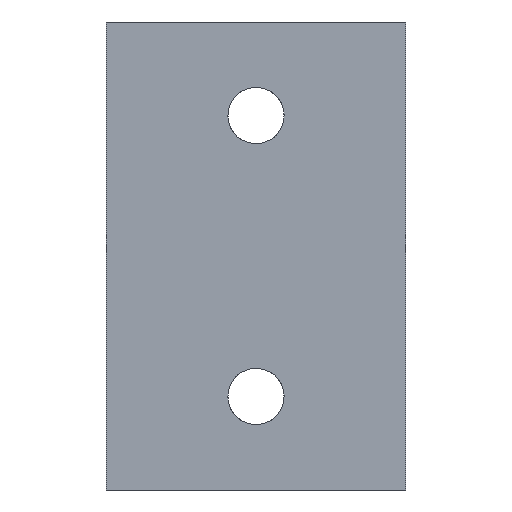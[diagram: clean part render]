
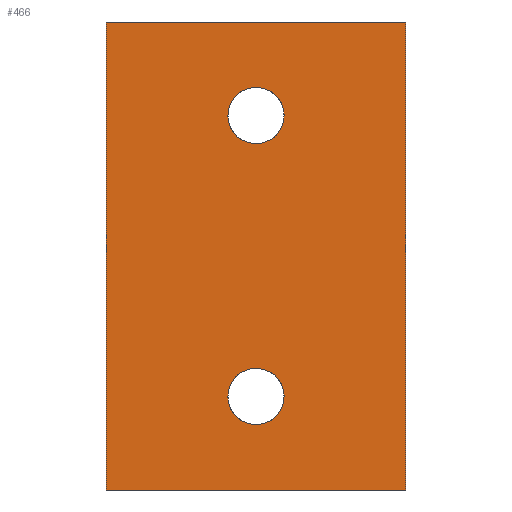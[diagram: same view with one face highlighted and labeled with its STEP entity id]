
A CAD part, front view. The second image highlights one B-rep face of the part: STEP entity #466.
In plain terms, the highlighted face is a extrusion surface.
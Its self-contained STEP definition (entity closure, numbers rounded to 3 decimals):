
#355=CARTESIAN_POINT('Control Point',(-48.,0.,0.)) ;
#356=CARTESIAN_POINT('Control Point',(-48.,0.,-75.)) ;
#360=CARTESIAN_POINT('Line Origine',(-24.,0.,-75.)) ;
#364=CARTESIAN_POINT('Vertex',(-48.,0.,-75.)) ;
#366=CARTESIAN_POINT('Vertex',(0.,0.,-75.)) ;
#369=CARTESIAN_POINT('Line Origine',(0.,0.,-37.5)) ;
#373=CARTESIAN_POINT('Vertex',(0.,0.,0.)) ;
#376=CARTESIAN_POINT('Line Origine',(-24.,0.,0.)) ;
#380=CARTESIAN_POINT('Vertex',(-48.,0.,0.)) ;
#383=CARTESIAN_POINT('Line Origine',(-48.,0.,-37.5)) ;
#395=CARTESIAN_POINT('Control Point',(-19.5,0.,-60.)) ;
#396=CARTESIAN_POINT('Control Point',(-19.5,0.,-61.247)) ;
#397=CARTESIAN_POINT('Control Point',(-19.932,0.,-62.494)) ;
#398=CARTESIAN_POINT('Control Point',(-20.8,0.,-63.539)) ;
#399=CARTESIAN_POINT('Control Point',(-22.71,0.,-64.63)) ;
#400=CARTESIAN_POINT('Control Point',(-24.841,0.,-64.54)) ;
#401=CARTESIAN_POINT('Control Point',(-25.671,0.,-64.305)) ;
#402=CARTESIAN_POINT('Control Point',(-27.085,0.,-63.511)) ;
#403=CARTESIAN_POINT('Control Point',(-28.032,0.,-62.204)) ;
#404=CARTESIAN_POINT('Control Point',(-28.344,0.,-61.498)) ;
#405=CARTESIAN_POINT('Control Point',(-28.5,0.,-60.749)) ;
#406=CARTESIAN_POINT('Control Point',(-28.5,0.,-60.)) ;
#407=CARTESIAN_POINT('Vertex',(-19.5,0.,-60.)) ;
#409=CARTESIAN_POINT('Vertex',(-28.5,0.,-60.)) ;
#413=CARTESIAN_POINT('Control Point',(-28.5,0.,-60.)) ;
#414=CARTESIAN_POINT('Control Point',(-28.5,0.,-58.753)) ;
#415=CARTESIAN_POINT('Control Point',(-28.068,0.,-57.506)) ;
#416=CARTESIAN_POINT('Control Point',(-27.2,0.,-56.461)) ;
#417=CARTESIAN_POINT('Control Point',(-25.29,0.,-55.37)) ;
#418=CARTESIAN_POINT('Control Point',(-23.159,0.,-55.46)) ;
#419=CARTESIAN_POINT('Control Point',(-22.329,0.,-55.695)) ;
#420=CARTESIAN_POINT('Control Point',(-20.915,0.,-56.489)) ;
#421=CARTESIAN_POINT('Control Point',(-19.968,0.,-57.796)) ;
#422=CARTESIAN_POINT('Control Point',(-19.656,0.,-58.502)) ;
#423=CARTESIAN_POINT('Control Point',(-19.5,0.,-59.251)) ;
#424=CARTESIAN_POINT('Control Point',(-19.5,0.,-60.)) ;
#431=CARTESIAN_POINT('Control Point',(-19.5,0.,-15.)) ;
#432=CARTESIAN_POINT('Control Point',(-19.5,0.,-16.247)) ;
#433=CARTESIAN_POINT('Control Point',(-19.932,0.,-17.494)) ;
#434=CARTESIAN_POINT('Control Point',(-20.8,0.,-18.539)) ;
#435=CARTESIAN_POINT('Control Point',(-22.71,0.,-19.63)) ;
#436=CARTESIAN_POINT('Control Point',(-24.841,0.,-19.54)) ;
#437=CARTESIAN_POINT('Control Point',(-25.671,0.,-19.305)) ;
#438=CARTESIAN_POINT('Control Point',(-27.085,0.,-18.511)) ;
#439=CARTESIAN_POINT('Control Point',(-28.032,0.,-17.204)) ;
#440=CARTESIAN_POINT('Control Point',(-28.344,0.,-16.498)) ;
#441=CARTESIAN_POINT('Control Point',(-28.5,0.,-15.749)) ;
#442=CARTESIAN_POINT('Control Point',(-28.5,0.,-15.)) ;
#443=CARTESIAN_POINT('Vertex',(-19.5,0.,-15.)) ;
#445=CARTESIAN_POINT('Vertex',(-28.5,0.,-15.)) ;
#449=CARTESIAN_POINT('Control Point',(-28.5,0.,-15.)) ;
#450=CARTESIAN_POINT('Control Point',(-28.5,0.,-13.753)) ;
#451=CARTESIAN_POINT('Control Point',(-28.068,0.,-12.506)) ;
#452=CARTESIAN_POINT('Control Point',(-27.2,0.,-11.461)) ;
#453=CARTESIAN_POINT('Control Point',(-25.29,0.,-10.37)) ;
#454=CARTESIAN_POINT('Control Point',(-23.159,0.,-10.46)) ;
#455=CARTESIAN_POINT('Control Point',(-22.329,0.,-10.695)) ;
#456=CARTESIAN_POINT('Control Point',(-20.915,0.,-11.489)) ;
#457=CARTESIAN_POINT('Control Point',(-19.968,0.,-12.796)) ;
#458=CARTESIAN_POINT('Control Point',(-19.656,0.,-13.502)) ;
#459=CARTESIAN_POINT('Control Point',(-19.5,0.,-14.251)) ;
#460=CARTESIAN_POINT('Control Point',(-19.5,0.,-15.)) ;
#357=DIRECTION('Vector Direction',(1.,0.,0.)) ;
#361=DIRECTION('Vector Direction',(1.,0.,0.)) ;
#370=DIRECTION('Vector Direction',(0.,0.,-1.)) ;
#377=DIRECTION('Vector Direction',(1.,0.,0.)) ;
#384=DIRECTION('Vector Direction',(0.,0.,-1.)) ;
#389=ORIENTED_EDGE('',*,*,#368,.T.) ;
#390=ORIENTED_EDGE('',*,*,#375,.T.) ;
#391=ORIENTED_EDGE('',*,*,#382,.T.) ;
#392=ORIENTED_EDGE('',*,*,#387,.T.) ;
#427=ORIENTED_EDGE('',*,*,#411,.T.) ;
#428=ORIENTED_EDGE('',*,*,#425,.T.) ;
#463=ORIENTED_EDGE('',*,*,#447,.T.) ;
#464=ORIENTED_EDGE('',*,*,#461,.T.) ;
#429=FACE_BOUND('',#426,.T.) ;
#465=FACE_BOUND('',#462,.T.) ;
#358=VECTOR('Extrusion Surface Vector',#357,1.) ;
#362=VECTOR('Line Direction',#361,1.) ;
#371=VECTOR('Line Direction',#370,1.) ;
#378=VECTOR('Line Direction',#377,1.) ;
#385=VECTOR('Line Direction',#384,1.) ;
#466=ADVANCED_FACE('Superficie.6',(#393,#429,#465),#359,.T.) ;
#354=B_SPLINE_CURVE_WITH_KNOTS('',1,(#355,#356),.UNSPECIFIED.,.F.,.U.,(2,2),(-37.5,37.5),.UNSPECIFIED.) ;
#394=B_SPLINE_CURVE_WITH_KNOTS('',5,(#395,#396,#397,#398,#399,#400,#401,#402,#403,#404,#405,#406),.UNSPECIFIED.,.F.,.U.,(6,3,3,6),(0.,8.818,14.697,19.993),.UNSPECIFIED.) ;
#412=B_SPLINE_CURVE_WITH_KNOTS('',5,(#413,#414,#415,#416,#417,#418,#419,#420,#421,#422,#423,#424),.UNSPECIFIED.,.F.,.U.,(6,3,3,6),(0.,8.818,14.697,19.993),.UNSPECIFIED.) ;
#430=B_SPLINE_CURVE_WITH_KNOTS('',5,(#431,#432,#433,#434,#435,#436,#437,#438,#439,#440,#441,#442),.UNSPECIFIED.,.F.,.U.,(6,3,3,6),(0.,8.818,14.697,19.993),.UNSPECIFIED.) ;
#448=B_SPLINE_CURVE_WITH_KNOTS('',5,(#449,#450,#451,#452,#453,#454,#455,#456,#457,#458,#459,#460),.UNSPECIFIED.,.F.,.U.,(6,3,3,6),(0.,8.818,14.697,19.993),.UNSPECIFIED.) ;
#368=EDGE_CURVE('',#365,#367,#363,.T.) ;
#375=EDGE_CURVE('',#367,#374,#372,.F.) ;
#382=EDGE_CURVE('',#374,#381,#379,.F.) ;
#387=EDGE_CURVE('',#381,#365,#386,.T.) ;
#411=EDGE_CURVE('',#408,#410,#394,.T.) ;
#425=EDGE_CURVE('',#410,#408,#412,.T.) ;
#447=EDGE_CURVE('',#444,#446,#430,.T.) ;
#461=EDGE_CURVE('',#446,#444,#448,.T.) ;
#388=EDGE_LOOP('',(#389,#390,#391,#392)) ;
#426=EDGE_LOOP('',(#427,#428)) ;
#462=EDGE_LOOP('',(#463,#464)) ;
#393=FACE_OUTER_BOUND('',#388,.T.) ;
#363=LINE('Line',#360,#362) ;
#372=LINE('Line',#369,#371) ;
#379=LINE('Line',#376,#378) ;
#386=LINE('Line',#383,#385) ;
#359=SURFACE_OF_LINEAR_EXTRUSION('generated tabulated cylinder',#354,#358) ;
#365=VERTEX_POINT('',#364) ;
#367=VERTEX_POINT('',#366) ;
#374=VERTEX_POINT('',#373) ;
#381=VERTEX_POINT('',#380) ;
#408=VERTEX_POINT('',#407) ;
#410=VERTEX_POINT('',#409) ;
#444=VERTEX_POINT('',#443) ;
#446=VERTEX_POINT('',#445) ;
